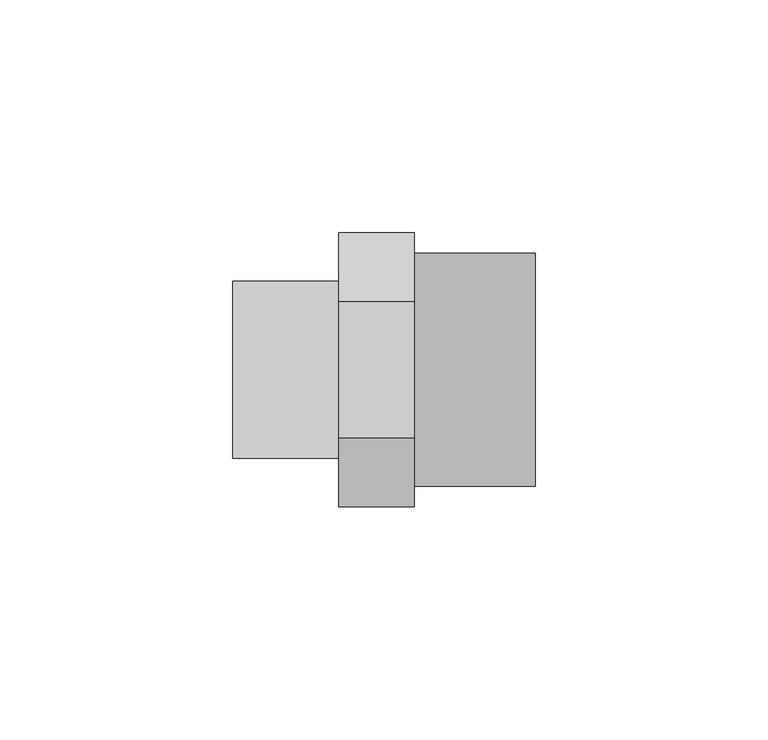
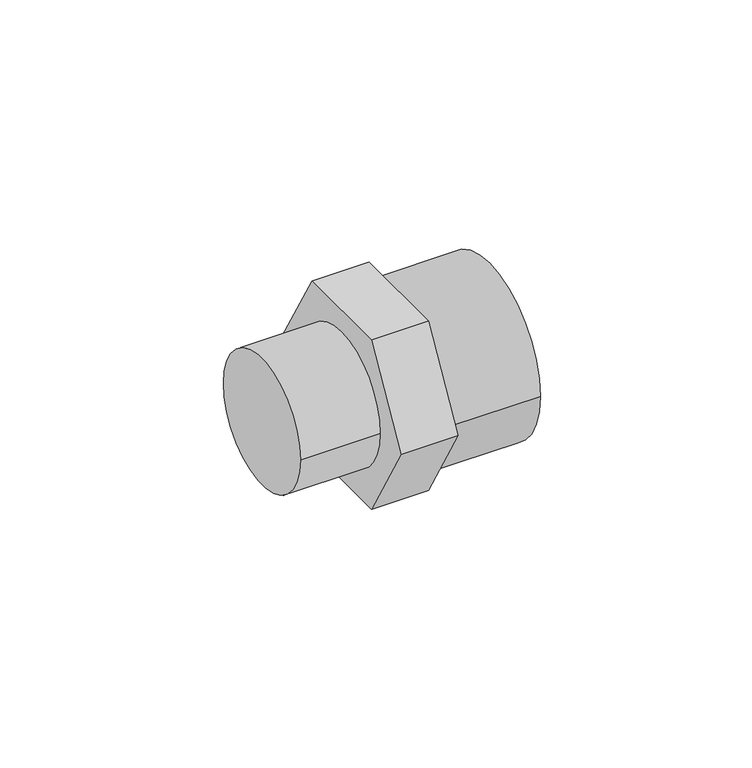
"""IFC4 building model written with IfcOpenShell, lengths in millimetres: pipe fitting geometry, 01101081 : Mamelons de réduction multiple FxMxM."""

from ifc_helpers import new_model, si_unit, point, frame, origin, origin_2d, place, context, project, spatial, polyline, circle_curve, trimmed, segment, composite_curve, outline, extrude, source, transform, mapped, element, save


def pipe_fitting_cfdf2e9e(model_context):
    return source(origin(), model_context, "Body", "SweptSolid", [
        extrude(outline(composite_curve([segment(trimmed(circle_curve(origin_2d(), 19.05), [point((19.05, 0.0))], [point((-19.05, 0.0))], False, "CARTESIAN"), True, "CONTINUOUS"), segment(trimmed(circle_curve(origin_2d(), 19.05), [point((-19.05, 0.0))], [point((19.05, 0.0))], False, "CARTESIAN"), True, "CONTINUOUS")], self_intersect=False)), frame((0.0, 0.0, 0.0), z_axis=(1.0, 0.0, 0.0), x_axis=(0.0, 1.0, 0.0)), (0.0, 0.0, 1.0), 22.75),
        extrude(outline(polyline([(-14.7224319, 25.5), (14.7224319, 25.5), (29.4448637, 0.0), (14.7224319, -25.5), (-14.7224319, -25.5), (-29.4448637, 0.0), (-14.7224319, 25.5)])), frame((22.75, 0.0, 0.0), z_axis=(1.0, 0.0, 0.0), x_axis=(0.0, 1.0, 0.0)), (0.0, 0.0, 1.0), 16.25),
        extrude(outline(composite_curve([segment(trimmed(circle_curve(origin_2d(), 25.0), [point((-25.0, 0.0))], [point((25.0, 0.0))], False, "CARTESIAN"), True, "CONTINUOUS"), segment(trimmed(circle_curve(origin_2d(), 25.0), [point((25.0, 0.0))], [point((-25.0, 0.0))], False, "CARTESIAN"), True, "CONTINUOUS")], self_intersect=False)), frame((39.0, 0.0, 0.0), z_axis=(1.0, 0.0, 0.0), x_axis=(0.0, 1.0, 0.0)), (0.0, 0.0, 1.0), 26.0),
    ])


if __name__ == "__main__":
    model = new_model("IFC4")
    model_context = context("Model", 3, world=origin())
    ifc_project = project(units=[si_unit("LENGTHUNIT", "METRE", prefix="MILLI")], contexts=[model_context])
    site = spatial("IfcSite", under=ifc_project)
    building = spatial("IfcBuilding", under=site)
    placement = place(None, origin())
    pipe_fitting_shape = pipe_fitting_cfdf2e9e(model_context)
    element("IfcPipeFitting", 1, ObjectType="01101081 : Mamelons de réduction multiple FxMxM", at=placement, inside=building, context=model_context, shape_type="MappedRepresentation", body=[
        mapped(pipe_fitting_shape, transform((0.0, 0.0, 0.0), x_axis=(1.0, 0.0, 0.0), y_axis=(0.0, 1.0, 0.0), z_axis=(0.0, 0.0, 1.0))),
    ])
    save(model, "model.ifc")
